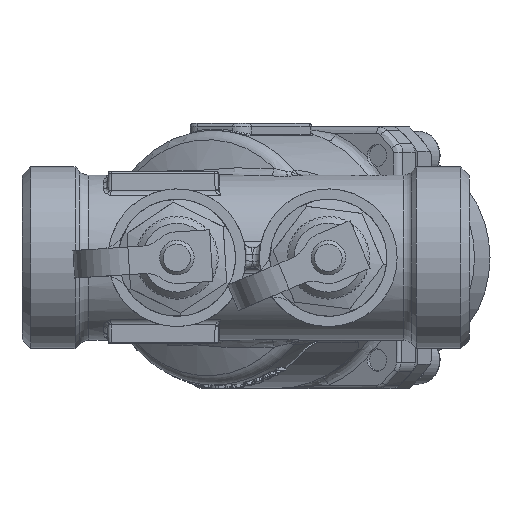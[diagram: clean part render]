
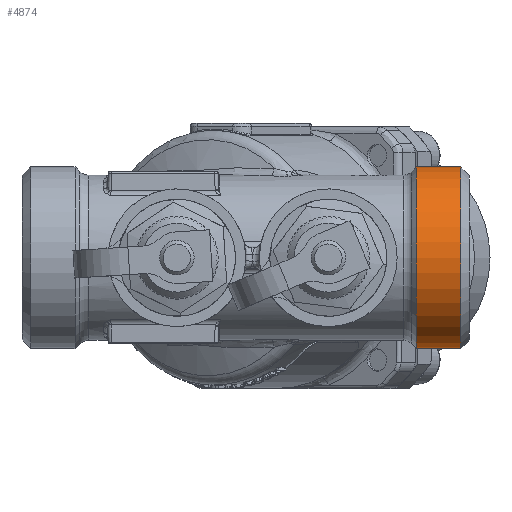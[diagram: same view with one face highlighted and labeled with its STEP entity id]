
A CAD part, front view. The second image highlights one B-rep face of the part: STEP entity #4874.
In plain terms, the highlighted cylindrical face has radius 13.2 mm (diameter 26.4 mm), a full revolution.
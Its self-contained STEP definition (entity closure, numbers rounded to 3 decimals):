
#4840=CARTESIAN_POINT('',(39.75,13.2,0.));
#4841=VERTEX_POINT('',#4840);
#4842=CARTESIAN_POINT('',(39.75,0.0,0.0));
#4843=DIRECTION('',(1.0,0.0,0.0));
#4844=DIRECTION('',(0.0,-1.0,0.0));
#4845=AXIS2_PLACEMENT_3D('',#4842,#4843,#4844);
#4846=CIRCLE('',#4845,13.2);
#4847=EDGE_CURVE('',#4841,#4841,#4846,.T.);
#4855=CARTESIAN_POINT('',(36.5,0.0,0.0));
#4856=DIRECTION('',(-1.0,0.0,0.0));
#4857=DIRECTION('',(0.0,1.0,0.0));
#4858=AXIS2_PLACEMENT_3D('',#4855,#4856,#4857);
#4859=CYLINDRICAL_SURFACE('',#4858,13.2);
#4860=CARTESIAN_POINT('',(33.3,-13.2,0.));
#4861=VERTEX_POINT('',#4860);
#4862=CARTESIAN_POINT('',(33.3,0.0,0.0));
#4863=DIRECTION('',(-1.0,0.0,0.0));
#4864=DIRECTION('',(0.0,1.0,0.0));
#4865=AXIS2_PLACEMENT_3D('',#4862,#4863,#4864);
#4866=CIRCLE('',#4865,13.2);
#4867=EDGE_CURVE('',#4861,#4861,#4866,.T.);
#4868=ORIENTED_EDGE('',*,*,#4867,.F.);
#4869=EDGE_LOOP('',(#4868));
#4870=FACE_OUTER_BOUND('',#4869,.T.);
#4871=ORIENTED_EDGE('',*,*,#4847,.F.);
#4872=EDGE_LOOP('',(#4871));
#4873=FACE_BOUND('',#4872,.T.);
#4874=ADVANCED_FACE('',(#4870,#4873),#4859,.T.);
